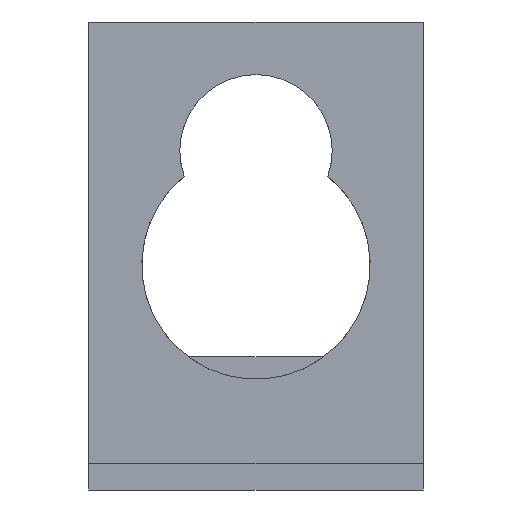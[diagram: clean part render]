
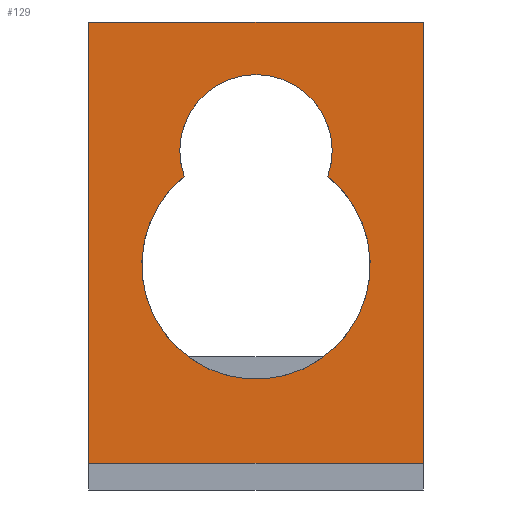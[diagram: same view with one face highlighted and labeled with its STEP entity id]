
A CAD part, front view. The second image highlights one B-rep face of the part: STEP entity #129.
In plain terms, the highlighted planar face has unit normal (0, -1, 0).
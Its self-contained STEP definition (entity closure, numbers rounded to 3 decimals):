
#107=CIRCLE('',#462,7.95);
#108=CIRCLE('',#463,11.915);
#117=FACE_BOUND('',#173,.T.);
#118=FACE_BOUND('',#174,.T.);
#129=ADVANCED_FACE('',(#117,#118),#147,.T.);
#147=PLANE('',#464);
#173=EDGE_LOOP('',(#207,#208));
#174=EDGE_LOOP('',(#209,#210,#211,#212));
#207=ORIENTED_EDGE('',*,*,#344,.T.);
#208=ORIENTED_EDGE('',*,*,#345,.T.);
#209=ORIENTED_EDGE('',*,*,#346,.T.);
#210=ORIENTED_EDGE('',*,*,#347,.T.);
#211=ORIENTED_EDGE('',*,*,#348,.F.);
#212=ORIENTED_EDGE('',*,*,#333,.T.);
#298=VERTEX_POINT('',#585);
#299=VERTEX_POINT('',#587);
#309=VERTEX_POINT('',#610);
#310=VERTEX_POINT('',#611);
#311=VERTEX_POINT('',#614);
#312=VERTEX_POINT('',#616);
#333=EDGE_CURVE('',#299,#298,#384,.T.);
#344=EDGE_CURVE('',#309,#310,#107,.T.);
#345=EDGE_CURVE('',#310,#309,#108,.T.);
#346=EDGE_CURVE('',#298,#311,#394,.T.);
#347=EDGE_CURVE('',#311,#312,#395,.T.);
#348=EDGE_CURVE('',#299,#312,#396,.T.);
#384=LINE('',#586,#422);
#394=LINE('',#613,#432);
#395=LINE('',#615,#433);
#396=LINE('',#617,#434);
#422=VECTOR('',#490,1.);
#432=VECTOR('',#510,1.);
#433=VECTOR('',#511,1.);
#434=VECTOR('',#512,1.);
#462=AXIS2_PLACEMENT_3D('',#609,#506,#507);
#463=AXIS2_PLACEMENT_3D('',#612,#508,#509);
#464=AXIS2_PLACEMENT_3D('',#618,#513,#514);
#490=DIRECTION('',(1.,0.,0.));
#506=DIRECTION('',(0.,1.,0.));
#507=DIRECTION('',(0.,0.,1.));
#508=DIRECTION('',(0.,1.,0.));
#509=DIRECTION('',(0.,0.,1.));
#510=DIRECTION('',(0.,0.,1.));
#511=DIRECTION('',(-1.,0.,0.));
#512=DIRECTION('',(0.,0.,1.));
#513=DIRECTION('',(0.,-1.,0.));
#514=DIRECTION('',(0.,0.,-1.));
#585=CARTESIAN_POINT('',(413.826,219.894,53.996));
#586=CARTESIAN_POINT('',(396.361,219.894,53.996));
#587=CARTESIAN_POINT('',(378.896,219.894,53.996));
#609=CARTESIAN_POINT('',(396.361,219.894,86.606));
#610=CARTESIAN_POINT('',(388.865,219.894,83.957));
#611=CARTESIAN_POINT('',(403.857,219.894,83.957));
#612=CARTESIAN_POINT('',(396.361,219.894,74.696));
#613=CARTESIAN_POINT('',(413.826,219.894,53.996));
#614=CARTESIAN_POINT('',(413.826,219.894,100.046));
#615=CARTESIAN_POINT('',(396.361,219.894,100.046));
#616=CARTESIAN_POINT('',(378.896,219.894,100.046));
#617=CARTESIAN_POINT('',(378.896,219.894,53.996));
#618=CARTESIAN_POINT('',(396.361,219.894,53.996));
